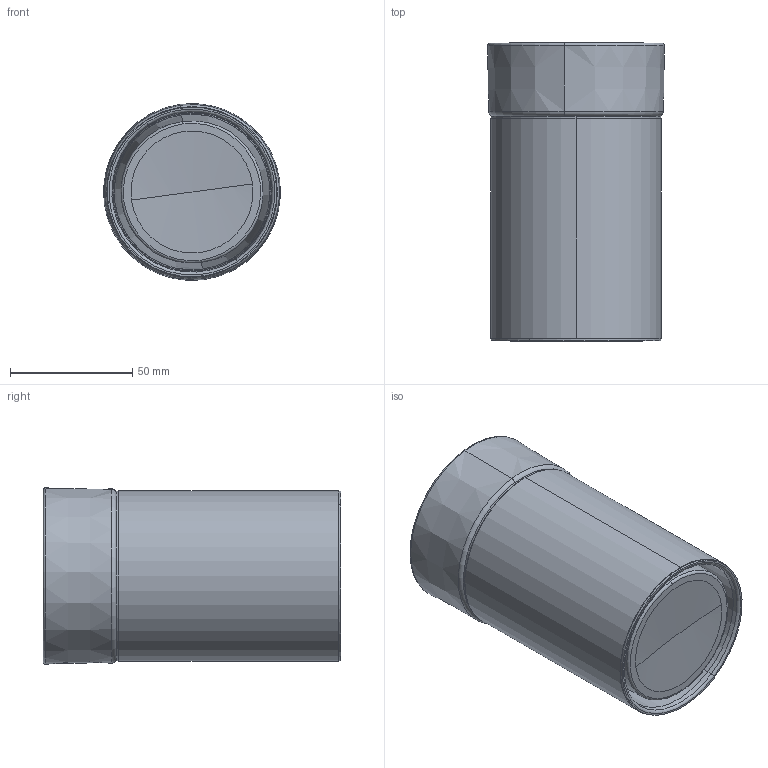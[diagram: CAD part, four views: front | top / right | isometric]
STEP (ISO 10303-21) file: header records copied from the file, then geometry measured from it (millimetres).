
FILE_DESCRIPTION (( 'STEP AP203' ), '1' );
FILE_NAME ('28013A-00-00.STEP', '2022-07-07T03:46:11', ( 'Windows User' ), ( 'P R C' ), 'SwSTEP 2.0', 'SolidWorks 2015', '' );
FILE_SCHEMA (( 'CONFIG_CONTROL_DESIGN' ));
Length unit declared in the file: millimetre
Products named in the file (1): 28013A-00-00
Bounding box: 72.45 x 122 x 72.45 mm (x, y, z)
Surface area: 77149.7 mm2 (no closed solid volume)
Topology: 0 solids, 5 shells, 40 faces, 88 edges, 55 vertices
Faces by surface type: torus 14, cone 10, cylinder 8, plane 6, sphere 2
Entity records: 1199 total; most frequent: DIRECTION 240, CARTESIAN_POINT 184, ORIENTED_EDGE 158, AXIS2_PLACEMENT_3D 111, EDGE_CURVE 88, CIRCLE 70, VERTEX_POINT 55, EDGE_LOOP 46
